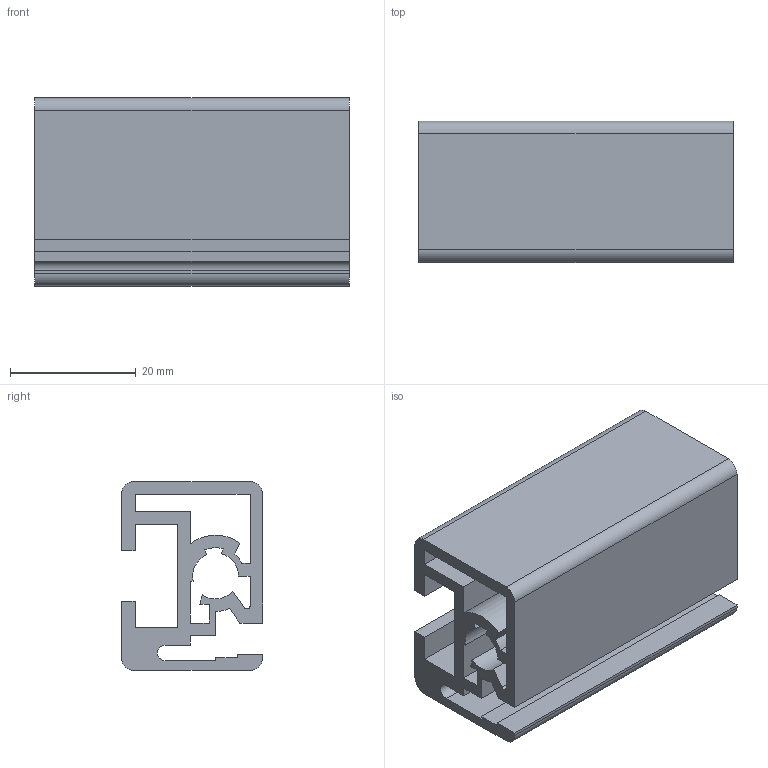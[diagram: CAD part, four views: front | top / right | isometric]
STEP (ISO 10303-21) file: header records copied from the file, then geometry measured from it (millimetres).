
FILE_DESCRIPTION(('no description'),'unknown implementation level');
FILE_NAME('3842992493_141657375.stp',' ',('Bosch Rexroth AG'),('CADClick - KiM GmbH - www.kimweb.de'),'unknown preprocess','ACIS','unknown authorization');
FILE_SCHEMA(('automotive_design'));
Length unit declared in the file: millimetre
Products named in the file (1): 1
Bounding box: 50 x 22.5 x 30 mm (x, y, z)
Volume: 15113.2 mm3; surface area: 14655.3 mm2
Topology: 1 solids, 1 shells, 57 faces, 165 edges, 110 vertices
Faces by surface type: plane 44, cylinder 13
Entity records: 3728 total; most frequent: STYLED_ITEM 333, PRESENTATION_STYLE_ASSIGNMENT 333, CARTESIAN_POINT 333, COLOUR_RGB 333, ORIENTED_EDGE 330, DIRECTION 307, EDGE_CURVE 165, CURVE_STYLE 165
